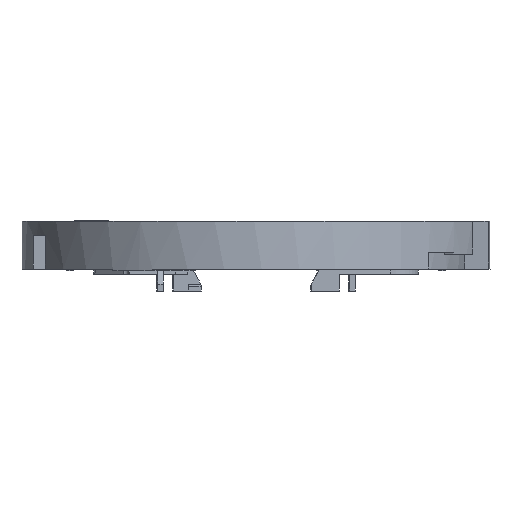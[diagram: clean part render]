
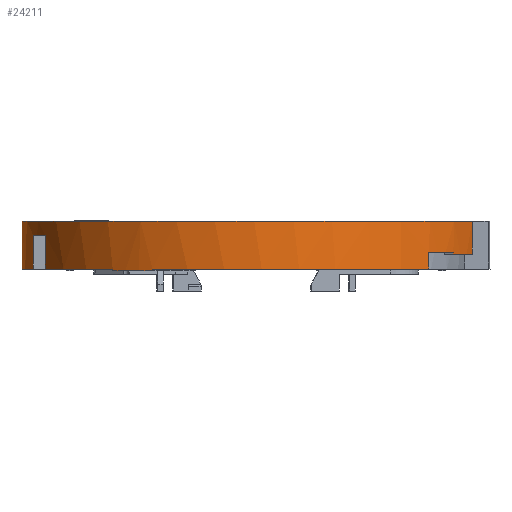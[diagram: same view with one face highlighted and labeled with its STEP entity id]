
A CAD part, left-side view. The second image highlights one B-rep face of the part: STEP entity #24211.
In plain terms, the highlighted cylindrical face has radius 25 mm (diameter 50 mm), a partial arc.
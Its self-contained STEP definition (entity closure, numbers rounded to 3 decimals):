
#17236=CARTESIAN_POINT(' ',(3.263,24.786,5.1));
#17237=VERTEX_POINT(' ',#17236);
#17251=CARTESIAN_POINT(' ',(0.,0.,5.1));
#17256=DIRECTION(' ',(0.,0.,1.));
#17261=DIRECTION(' ',(0.131,0.991,0.));
#17266=AXIS2_PLACEMENT_3D(' ',#17251,#17256,#17261);
#17271=CIRCLE('',#17266,25.);
#17276=CARTESIAN_POINT(' ',(-9.567,-23.097,5.1));
#17277=VERTEX_POINT(' ',#17276);
#17281=EDGE_CURVE(' ',#17237,#17277,#17271,.T.);
#23586=CARTESIAN_POINT(' ',(3.263,24.786,0.));
#23587=VERTEX_POINT(' ',#23586);
#23601=CARTESIAN_POINT(' ',(3.263,24.786,0.));
#23606=DIRECTION(' ',(0.,0.,1.));
#23611=VECTOR(' ',#23606,1.);
#23616=LINE('',#23601,#23611);
#23621=EDGE_CURVE(' ',#23587,#17237,#23616,.T.);
#23646=CARTESIAN_POINT(' ',(0.,0.,22.5));
#23651=DIRECTION(' ',(0.,0.,1.));
#23656=DIRECTION(' ',(0.131,0.991,0.));
#23661=AXIS2_PLACEMENT_3D(' ',#23646,#23651,#23656);
#23666=CYLINDRICAL_SURFACE(' ',#23661,25.);
#23671=CARTESIAN_POINT(' ',(-16.89,-18.432,1.8));
#23676=DIRECTION(' ',(0.,0.,-1.));
#23681=VECTOR(' ',#23676,1.);
#23686=LINE('',#23671,#23681);
#23691=CARTESIAN_POINT(' ',(-16.89,-18.432,1.8));
#23692=VERTEX_POINT(' ',#23691);
#23696=CARTESIAN_POINT(' ',(-16.89,-18.432,0.));
#23697=VERTEX_POINT(' ',#23696);
#23701=EDGE_CURVE(' ',#23692,#23697,#23686,.T.);
#23706=ORIENTED_EDGE(' ',*,*,#23701,.F.);
#23711=CARTESIAN_POINT(' ',(0.,0.,1.8));
#23716=DIRECTION(' ',(0.,0.,1.));
#23721=DIRECTION(' ',(-0.676,-0.737,0.));
#23726=AXIS2_PLACEMENT_3D(' ',#23711,#23716,#23721);
#23731=CIRCLE('',#23726,25.);
#23736=CARTESIAN_POINT(' ',(-13.432,-21.085,1.8));
#23737=VERTEX_POINT(' ',#23736);
#23741=EDGE_CURVE(' ',#23692,#23737,#23731,.T.);
#23746=ORIENTED_EDGE(' ',*,*,#23741,.T.);
#23751=CARTESIAN_POINT(' ',(-13.432,-21.085,1.8));
#23756=DIRECTION(' ',(0.,0.,-1.));
#23761=VECTOR(' ',#23756,1.);
#23766=LINE('',#23751,#23761);
#23771=CARTESIAN_POINT(' ',(-13.432,-21.085,1.6));
#23772=VERTEX_POINT(' ',#23771);
#23776=EDGE_CURVE(' ',#23737,#23772,#23766,.T.);
#23781=ORIENTED_EDGE(' ',*,*,#23776,.T.);
#23786=CARTESIAN_POINT(' ',(0.,0.,1.6));
#23791=DIRECTION(' ',(0.,0.,-1.));
#23796=DIRECTION(' ',(-0.383,-0.924,0.));
#23801=AXIS2_PLACEMENT_3D(' ',#23786,#23791,#23796);
#23806=CIRCLE('',#23801,25.);
#23811=CARTESIAN_POINT(' ',(-9.567,-23.097,1.6));
#23812=VERTEX_POINT(' ',#23811);
#23816=EDGE_CURVE(' ',#23812,#23772,#23806,.T.);
#23821=ORIENTED_EDGE(' ',*,*,#23816,.F.);
#23826=CARTESIAN_POINT(' ',(-9.567,-23.097,5.1));
#23831=DIRECTION(' ',(0.,0.,-1.));
#23836=VECTOR(' ',#23831,1.);
#23841=LINE('',#23826,#23836);
#23846=EDGE_CURVE(' ',#17277,#23812,#23841,.T.);
#23851=ORIENTED_EDGE(' ',*,*,#23846,.F.);
#23856=ORIENTED_EDGE(' ',*,*,#17281,.F.);
#23861=ORIENTED_EDGE(' ',*,*,#23621,.F.);
#23866=CARTESIAN_POINT(' ',(0.,0.,0.));
#23871=DIRECTION(' ',(0.,0.,1.));
#23876=DIRECTION(' ',(0.131,0.991,0.));
#23881=AXIS2_PLACEMENT_3D(' ',#23866,#23871,#23876);
#23886=CIRCLE('',#23881,25.);
#23891=CARTESIAN_POINT(' ',(-7.7,23.785,0.));
#23892=VERTEX_POINT(' ',#23891);
#23896=EDGE_CURVE(' ',#23587,#23892,#23886,.T.);
#23901=ORIENTED_EDGE(' ',*,*,#23896,.T.);
#23906=CARTESIAN_POINT(' ',(-7.7,23.785,0.));
#23911=DIRECTION(' ',(0.,0.,1.));
#23916=VECTOR(' ',#23911,1.);
#23921=LINE('',#23906,#23916);
#23926=CARTESIAN_POINT(' ',(-7.7,23.785,3.6));
#23927=VERTEX_POINT(' ',#23926);
#23931=EDGE_CURVE(' ',#23892,#23927,#23921,.T.);
#23936=ORIENTED_EDGE(' ',*,*,#23931,.T.);
#23941=CARTESIAN_POINT(' ',(0.,0.,3.6));
#23946=DIRECTION(' ',(0.,0.,1.));
#23951=DIRECTION(' ',(-0.308,0.951,0.));
#23956=AXIS2_PLACEMENT_3D(' ',#23941,#23946,#23951);
#23961=CIRCLE('',#23956,25.);
#23966=CARTESIAN_POINT(' ',(-10.9,22.499,3.6));
#23967=VERTEX_POINT(' ',#23966);
#23971=EDGE_CURVE(' ',#23927,#23967,#23961,.T.);
#23976=ORIENTED_EDGE(' ',*,*,#23971,.T.);
#23981=CARTESIAN_POINT(' ',(-10.9,22.499,0.));
#23986=DIRECTION(' ',(0.,0.,1.));
#23991=VECTOR(' ',#23986,1.);
#23996=LINE('',#23981,#23991);
#24001=CARTESIAN_POINT(' ',(-10.9,22.499,0.));
#24002=VERTEX_POINT(' ',#24001);
#24006=EDGE_CURVE(' ',#24002,#23967,#23996,.T.);
#24011=ORIENTED_EDGE(' ',*,*,#24006,.F.);
#24016=CARTESIAN_POINT(' ',(0.,0.,0.));
#24021=DIRECTION(' ',(0.,0.,1.));
#24026=DIRECTION(' ',(-0.436,0.9,0.));
#24031=AXIS2_PLACEMENT_3D(' ',#24016,#24021,#24026);
#24036=CIRCLE('',#24031,25.);
#24041=CARTESIAN_POINT(' ',(-19.77,15.302,0.));
#24042=VERTEX_POINT(' ',#24041);
#24046=EDGE_CURVE(' ',#24002,#24042,#24036,.T.);
#24051=ORIENTED_EDGE(' ',*,*,#24046,.T.);
#24056=CARTESIAN_POINT(' ',(-19.77,15.302,-0.2));
#24061=DIRECTION(' ',(0.,0.,1.));
#24066=VECTOR(' ',#24061,1.);
#24071=LINE('',#24056,#24066);
#24076=CARTESIAN_POINT(' ',(-19.77,15.302,-0.2));
#24077=VERTEX_POINT(' ',#24076);
#24081=EDGE_CURVE(' ',#24077,#24042,#24071,.T.);
#24086=ORIENTED_EDGE(' ',*,*,#24081,.F.);
#24091=CARTESIAN_POINT(' ',(0.,0.,-0.2));
#24096=DIRECTION(' ',(0.,0.,-1.));
#24101=DIRECTION(' ',(-0.897,0.442,0.));
#24106=AXIS2_PLACEMENT_3D(' ',#24091,#24096,#24101);
#24111=CIRCLE('',#24106,25.);
#24116=CARTESIAN_POINT(' ',(-22.42,11.061,-0.2));
#24117=VERTEX_POINT(' ',#24116);
#24121=EDGE_CURVE(' ',#24117,#24077,#24111,.T.);
#24126=ORIENTED_EDGE(' ',*,*,#24121,.F.);
#24131=CARTESIAN_POINT(' ',(-22.42,11.061,-0.2));
#24136=DIRECTION(' ',(0.,0.,1.));
#24141=VECTOR(' ',#24136,1.);
#24146=LINE('',#24131,#24141);
#24151=CARTESIAN_POINT(' ',(-22.42,11.061,0.));
#24152=VERTEX_POINT(' ',#24151);
#24156=EDGE_CURVE(' ',#24117,#24152,#24146,.T.);
#24161=ORIENTED_EDGE(' ',*,*,#24156,.T.);
#24166=CARTESIAN_POINT(' ',(0.,0.,0.));
#24171=DIRECTION(' ',(0.,0.,1.));
#24176=DIRECTION(' ',(-0.897,0.442,0.));
#24181=AXIS2_PLACEMENT_3D(' ',#24166,#24171,#24176);
#24186=CIRCLE('',#24181,25.);
#24191=EDGE_CURVE(' ',#24152,#23697,#24186,.T.);
#24196=ORIENTED_EDGE(' ',*,*,#24191,.T.);
#24201=EDGE_LOOP(' ',(#23706,#23746,#23781,#23821,#23851,#23856,#23861,#23901,#23936,#23976,#24011,#24051,#24086,#24126,#24161,#24196));
#24206=FACE_OUTER_BOUND(' ',#24201,.T.);
#24211=ADVANCED_FACE('',(#24206),#23666,.T.);
